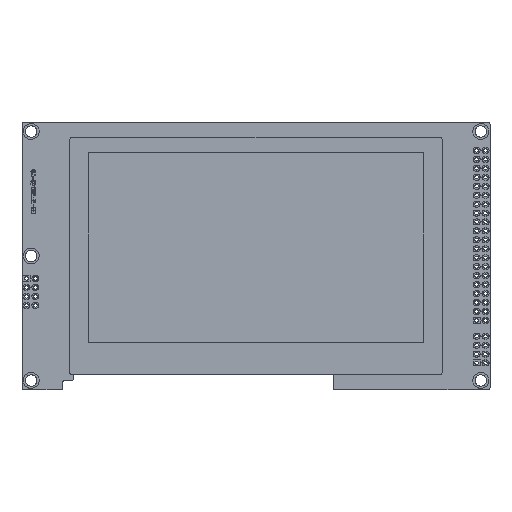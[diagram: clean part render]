
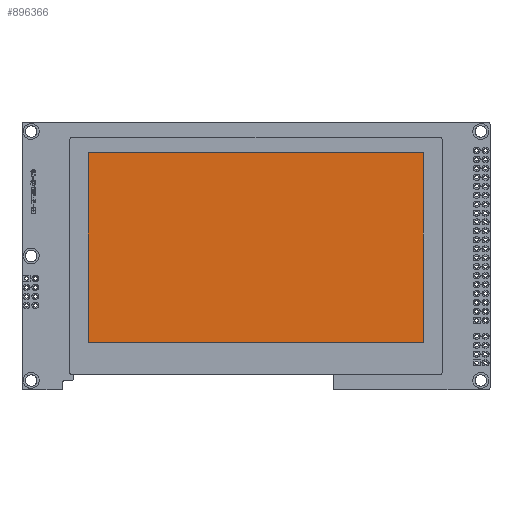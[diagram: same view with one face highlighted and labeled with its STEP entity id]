
A CAD part, top view. The second image highlights one B-rep face of the part: STEP entity #896366.
In plain terms, the highlighted free-form (B-spline) face has degree [1, 1] with [2, 2] control points.
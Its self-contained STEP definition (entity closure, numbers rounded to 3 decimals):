
#108=(GEOMETRIC_REPRESENTATION_CONTEXT(2)PARAMETRIC_REPRESENTATION_CONTEXT()REPRESENTATION_CONTEXT('',''));
#832179=CARTESIAN_POINT('',(18.78,13.356,3.9));
#832180=CARTESIAN_POINT('',(113.82,13.356,3.9));
#832181=CARTESIAN_POINT('',(18.78,13.356,0.8));
#832182=CARTESIAN_POINT('',(113.82,13.356,0.8));
#832183=B_SPLINE_SURFACE_WITH_KNOTS('',1,1,((#832179,#832180),(#832181,#832182)),.UNSPECIFIED.,.F.,.F.,.U.,(2,2),(2,2),(0.,0.003),(0.019,0.114),.UNSPECIFIED.);
#832202=CARTESIAN_POINT('',(18.78,13.356,0.8));
#832203=CARTESIAN_POINT('',(18.78,67.212,0.8));
#832204=CARTESIAN_POINT('',(18.78,13.356,3.9));
#832205=CARTESIAN_POINT('',(18.78,67.212,3.9));
#832206=B_SPLINE_SURFACE_WITH_KNOTS('',1,1,((#832202,#832203),(#832204,#832205)),.UNSPECIFIED.,.F.,.F.,.U.,(2,2),(2,2),(-0.003,0.),(0.013,0.067),.UNSPECIFIED.);
#832225=CARTESIAN_POINT('',(18.78,67.212,0.8));
#832226=CARTESIAN_POINT('',(113.82,67.212,0.8));
#832227=CARTESIAN_POINT('',(18.78,67.212,3.9));
#832228=CARTESIAN_POINT('',(113.82,67.212,3.9));
#832229=B_SPLINE_SURFACE_WITH_KNOTS('',1,1,((#832225,#832226),(#832227,#832228)),.UNSPECIFIED.,.F.,.F.,.U.,(2,2),(2,2),(-0.003,0.),(0.019,0.114),.UNSPECIFIED.);
#832246=CARTESIAN_POINT('',(113.82,13.356,3.9));
#832247=CARTESIAN_POINT('',(113.82,67.212,3.9));
#832248=CARTESIAN_POINT('',(113.82,13.356,0.8));
#832249=CARTESIAN_POINT('',(113.82,67.212,0.8));
#832250=B_SPLINE_SURFACE_WITH_KNOTS('',1,1,((#832246,#832247),(#832248,#832249)),.UNSPECIFIED.,.F.,.F.,.U.,(2,2),(2,2),(0.,0.003),(0.013,0.067),.UNSPECIFIED.);
#896196=CARTESIAN_POINT('',(113.82,13.356,3.9));
#896197=VERTEX_POINT('',#896196);
#896214=CARTESIAN_POINT('',(18.78,13.356,3.9));
#896215=VERTEX_POINT('',#896214);
#896216=CARTESIAN_POINT('',(113.82,13.356,3.9));
#896217=CARTESIAN_POINT('',(113.82,67.212,3.9));
#896218=CARTESIAN_POINT('',(18.78,13.356,3.9));
#896219=CARTESIAN_POINT('',(18.78,67.212,3.9));
#896220=B_SPLINE_SURFACE_WITH_KNOTS('',1,1,((#896216,#896217),(#896218,#896219)),.UNSPECIFIED.,.F.,.F.,.U.,(2,2),(2,2),(-0.114,-0.019),(0.013,0.067),.UNSPECIFIED.);
#896221=CARTESIAN_POINT('',(0.,0.114));
#896222=CARTESIAN_POINT('',(0.,0.019));
#896223=B_SPLINE_CURVE_WITH_KNOTS('',1,(#896221,#896222),.UNSPECIFIED.,.F.,.F.,(2,2),(-0.114,-0.019),.UNSPECIFIED.);
#896224=DEFINITIONAL_REPRESENTATION('',(#896223),#108);
#896225=PCURVE('',#832183,#896224);
#896226=CARTESIAN_POINT('',(-0.114,0.013));
#896227=CARTESIAN_POINT('',(-0.019,0.013));
#896228=B_SPLINE_CURVE_WITH_KNOTS('',1,(#896226,#896227),.UNSPECIFIED.,.F.,.F.,(2,2),(-0.114,-0.019),.UNSPECIFIED.);
#896229=DEFINITIONAL_REPRESENTATION('',(#896228),#108);
#896230=PCURVE('',#896220,#896229);
#896231=CARTESIAN_POINT('',(113.82,13.356,3.9));
#896232=CARTESIAN_POINT('',(18.78,13.356,3.9));
#896233=B_SPLINE_CURVE_WITH_KNOTS('',1,(#896231,#896232),.UNSPECIFIED.,.F.,.F.,(2,2),(-0.114,-0.019),.UNSPECIFIED.);
#896234=INTERSECTION_CURVE('',#896233,(#896225,#896230),.PCURVE_S1.);
#896235=EDGE_CURVE('',#896197,#896215,#896234,.T.);
#896258=CARTESIAN_POINT('',(113.82,67.212,3.9));
#896259=VERTEX_POINT('',#896258);
#896276=CARTESIAN_POINT('',(0.,0.067));
#896277=CARTESIAN_POINT('',(0.,0.013));
#896278=B_SPLINE_CURVE_WITH_KNOTS('',1,(#896276,#896277),.UNSPECIFIED.,.F.,.F.,(2,2),(-0.067,-0.013),.UNSPECIFIED.);
#896279=DEFINITIONAL_REPRESENTATION('',(#896278),#108);
#896280=PCURVE('',#832250,#896279);
#896281=CARTESIAN_POINT('',(-0.114,0.067));
#896282=CARTESIAN_POINT('',(-0.114,0.013));
#896283=B_SPLINE_CURVE_WITH_KNOTS('',1,(#896281,#896282),.UNSPECIFIED.,.F.,.F.,(2,2),(-0.067,-0.013),.UNSPECIFIED.);
#896284=DEFINITIONAL_REPRESENTATION('',(#896283),#108);
#896285=PCURVE('',#896220,#896284);
#896286=CARTESIAN_POINT('',(113.82,67.212,3.9));
#896287=CARTESIAN_POINT('',(113.82,13.356,3.9));
#896288=B_SPLINE_CURVE_WITH_KNOTS('',1,(#896286,#896287),.UNSPECIFIED.,.F.,.F.,(2,2),(-0.067,-0.013),.UNSPECIFIED.);
#896289=INTERSECTION_CURVE('',#896288,(#896280,#896285),.PCURVE_S1.);
#896290=EDGE_CURVE('',#896259,#896197,#896289,.T.);
#896298=CARTESIAN_POINT('',(18.78,67.212,3.9));
#896299=VERTEX_POINT('',#896298);
#896316=CARTESIAN_POINT('',(0.,0.019));
#896317=CARTESIAN_POINT('',(0.,0.114));
#896318=B_SPLINE_CURVE_WITH_KNOTS('',1,(#896316,#896317),.UNSPECIFIED.,.F.,.F.,(2,2),(0.019,0.114),.UNSPECIFIED.);
#896319=DEFINITIONAL_REPRESENTATION('',(#896318),#108);
#896320=PCURVE('',#832229,#896319);
#896321=CARTESIAN_POINT('',(-0.019,0.067));
#896322=CARTESIAN_POINT('',(-0.114,0.067));
#896323=B_SPLINE_CURVE_WITH_KNOTS('',1,(#896321,#896322),.UNSPECIFIED.,.F.,.F.,(2,2),(0.019,0.114),.UNSPECIFIED.);
#896324=DEFINITIONAL_REPRESENTATION('',(#896323),#108);
#896325=PCURVE('',#896220,#896324);
#896326=CARTESIAN_POINT('',(18.78,67.212,3.9));
#896327=CARTESIAN_POINT('',(113.82,67.212,3.9));
#896328=B_SPLINE_CURVE_WITH_KNOTS('',1,(#896326,#896327),.UNSPECIFIED.,.F.,.F.,(2,2),(0.019,0.114),.UNSPECIFIED.);
#896329=INTERSECTION_CURVE('',#896328,(#896320,#896325),.PCURVE_S1.);
#896330=EDGE_CURVE('',#896299,#896259,#896329,.T.);
#896339=CARTESIAN_POINT('',(0.,0.013));
#896340=CARTESIAN_POINT('',(0.,0.067));
#896341=B_SPLINE_CURVE_WITH_KNOTS('',1,(#896339,#896340),.UNSPECIFIED.,.F.,.F.,(2,2),(0.013,0.067),.UNSPECIFIED.);
#896342=DEFINITIONAL_REPRESENTATION('',(#896341),#108);
#896343=PCURVE('',#832206,#896342);
#896344=CARTESIAN_POINT('',(-0.019,0.013));
#896345=CARTESIAN_POINT('',(-0.019,0.067));
#896346=B_SPLINE_CURVE_WITH_KNOTS('',1,(#896344,#896345),.UNSPECIFIED.,.F.,.F.,(2,2),(0.013,0.067),.UNSPECIFIED.);
#896347=DEFINITIONAL_REPRESENTATION('',(#896346),#108);
#896348=PCURVE('',#896220,#896347);
#896349=CARTESIAN_POINT('',(18.78,13.356,3.9));
#896350=CARTESIAN_POINT('',(18.78,67.212,3.9));
#896351=B_SPLINE_CURVE_WITH_KNOTS('',1,(#896349,#896350),.UNSPECIFIED.,.F.,.F.,(2,2),(0.013,0.067),.UNSPECIFIED.);
#896352=INTERSECTION_CURVE('',#896351,(#896343,#896348),.PCURVE_S1.);
#896353=EDGE_CURVE('',#896215,#896299,#896352,.T.);
#896360=ORIENTED_EDGE('',*,*,#896235,.F.);
#896361=ORIENTED_EDGE('',*,*,#896290,.F.);
#896362=ORIENTED_EDGE('',*,*,#896330,.F.);
#896363=ORIENTED_EDGE('',*,*,#896353,.F.);
#896364=EDGE_LOOP('',(#896360,#896361,#896362,#896363));
#896365=FACE_BOUND('',#896364,.T.);
#896366=ADVANCED_FACE('',(#896365),#896220,.F.);
